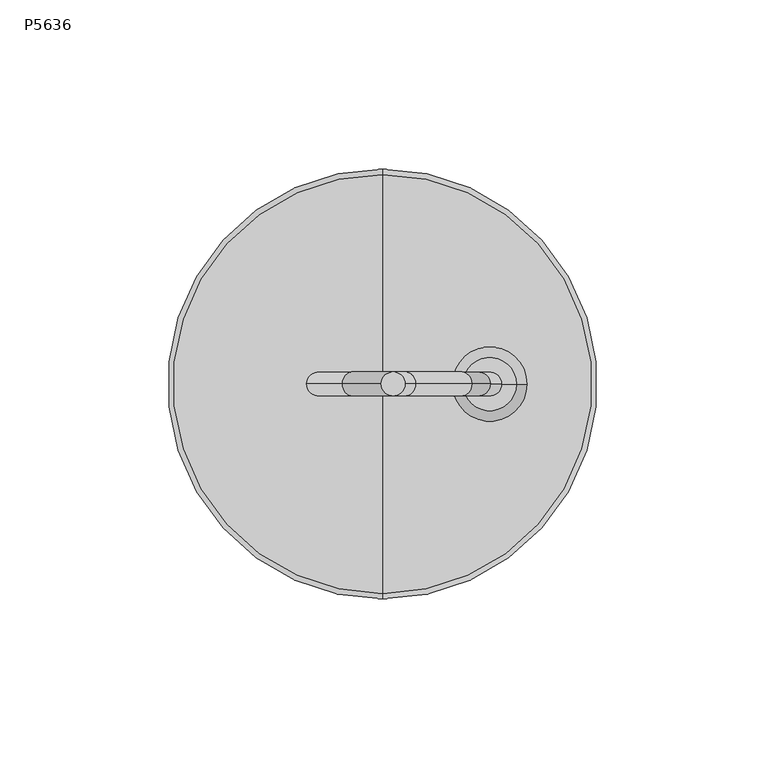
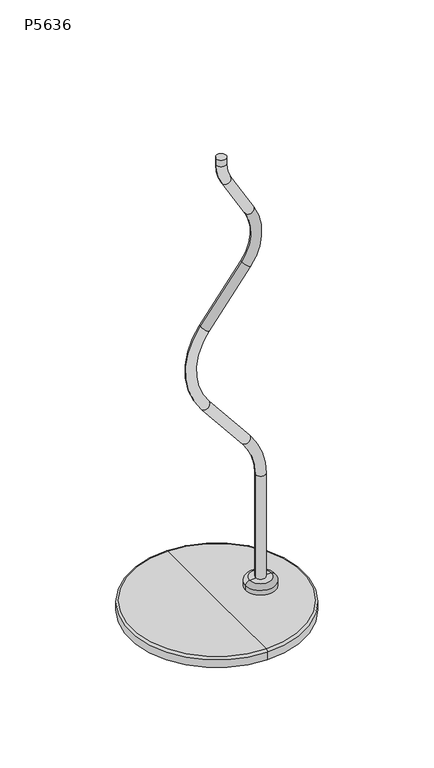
"""IFC4 building model written with IfcOpenShell, lengths in millimetres: light fixture geometry, Impact_Arch_Ltg-waf.r.3 : P5636."""

import ifcopenshell
import ifcopenshell.guid

model = None  # the IFC model being written
_history = None  # IfcOwnerHistory: only IFC2X3 demands one
_inside = {}  # id of a spatial element -> (the spatial element, [elements in it])
_under = {}  # id of a project, library or spatial element -> (it, [spatial elements below it])
_declared = {}  # id of a project -> (the project, [libraries it declares])
_typed = {}  # id of a type object -> (the type object, [elements of that type])
_made_of = {}  # id of a material, layer set ... -> (it, [elements and type objects made of it])


def new_model(schema):
    """Start an empty IFC model of exactly this schema.

    Asked for "IFC4X3", IfcOpenShell would pick the latest addendum, in which some entities
    have other attributes; the version numbers below select the first issue.
    IFC2X3 requires an IfcOwnerHistory on every rooted entity: one is made here for all.
    """
    global model, _history
    if schema == "IFC4X3":
        model = ifcopenshell.file(schema_version=(4, 3, 0, 0))
    else:
        model = ifcopenshell.file(schema=schema)
    _inside.clear()
    _under.clear()
    _declared.clear()
    _typed.clear()
    _made_of.clear()
    _history = None
    if model.schema == "IFC2X3":
        org = make("IfcOrganization", Name="unknown")
        user = make(
            "IfcPersonAndOrganization",
            ThePerson=make("IfcPerson", FamilyName="unknown"),
            TheOrganization=org,
        )
        app = make(
            "IfcApplication",
            ApplicationDeveloper=org,
            Version="unknown",
            ApplicationFullName="unknown",
            ApplicationIdentifier="unknown",
        )
        _history = make(
            "IfcOwnerHistory",
            OwningUser=user,
            OwningApplication=app,
            ChangeAction="ADDED",
            CreationDate=0,
        )
    return model


def make(cls, **values):
    """One entity of the class cls with the attributes given. An attribute that is None is left unset."""
    return model.create_entity(
        cls, **{name: value for name, value in values.items() if value is not None}
    )


def rooted(cls, **values):
    """An entity with a GlobalId (a new one), such as an element, a storey or a relation."""
    return make(cls, GlobalId=ifcopenshell.guid.new(), OwnerHistory=_history, **values)


def si_unit(unit_type, name, prefix=None):
    """IfcSIUnit, for example si_unit("LENGTHUNIT", "METRE", prefix="MILLI")."""
    return make("IfcSIUnit", UnitType=unit_type, Prefix=prefix, Name=name)


def assignment(units):
    """IfcUnitAssignment: the units of a project."""
    return None if units is None else make("IfcUnitAssignment", Units=units)


def point(xyz):
    """IfcCartesianPoint."""
    return None if xyz is None else make("IfcCartesianPoint", Coordinates=xyz)


def direction(xyz):
    """IfcDirection."""
    return None if xyz is None else make("IfcDirection", DirectionRatios=xyz)


def frame(location, z_axis=None, x_axis=None):
    """IfcAxis2Placement3D, a coordinate frame: its origin and axes. An axis left out is left unset."""
    return make(
        "IfcAxis2Placement3D",
        Location=point(location),
        Axis=direction(z_axis),
        RefDirection=direction(x_axis),
    )


def origin():
    """The frame at (0, 0, 0) with its axes left unset."""
    return frame((0.0, 0.0, 0.0))


def place(relative_to, where):
    """IfcLocalPlacement: puts the frame where relative to a parent placement (None: the world)."""
    return make(
        "IfcLocalPlacement", PlacementRelTo=relative_to, RelativePlacement=where
    )


def context(
    kind, dimensions, precision=None, world=None, true_north=None, identifier=None
):
    """IfcGeometricRepresentationContext, for example the 3D "Model" context."""
    return make(
        "IfcGeometricRepresentationContext",
        ContextIdentifier=identifier,
        ContextType=kind,
        CoordinateSpaceDimension=dimensions,
        Precision=precision,
        WorldCoordinateSystem=world,
        TrueNorth=true_north,
    )


def project(units=None, contexts=None):
    """IfcProject with its units and contexts."""
    return rooted(
        "IfcProject",
        Name="project",
        RepresentationContexts=contexts,
        UnitsInContext=assignment(units),
    )


def spatial(cls, under=None, at=None, **own):
    """A site, building, storey or space (cls), placed at a placement, below another one or the project."""
    s = rooted(cls, ObjectPlacement=at, **own)
    if under is not None:
        _under.setdefault(under.id(), (under, []))[1].append(s)
    return s


def circle_curve(where, radius):
    """IfcCircle in the frame where."""
    return make("IfcCircle", Position=where, Radius=radius)


def ellipse_curve(where, semi_axis1, semi_axis2):
    """IfcEllipse in the frame where."""
    return make(
        "IfcEllipse", Position=where, SemiAxis1=semi_axis1, SemiAxis2=semi_axis2
    )


def trimmed(basis, trim1, trim2, sense, master):
    """IfcTrimmedCurve: the piece of a basis curve between two trims."""
    return make(
        "IfcTrimmedCurve",
        BasisCurve=basis,
        Trim1=trim1,
        Trim2=trim2,
        SenseAgreement=sense,
        MasterRepresentation=master,
    )


def shape(context_of_items, identifier, shape_type, items):
    """IfcShapeRepresentation: the items that make up one representation, for example the "Body"."""
    return make(
        "IfcShapeRepresentation",
        ContextOfItems=context_of_items,
        RepresentationIdentifier=identifier,
        RepresentationType=shape_type,
        Items=items,
    )


def source(mapping_origin, context_of_items, identifier, shape_type, items):
    """IfcRepresentationMap: a shape defined once, which mapped items show again and again."""
    return make(
        "IfcRepresentationMap",
        MappingOrigin=mapping_origin,
        MappedRepresentation=shape(context_of_items, identifier, shape_type, items),
    )


def transform(
    local_origin,
    x_axis=None,
    y_axis=None,
    z_axis=None,
    scale=None,
    scale2=None,
    scale3=None,
    uniform=True,
):
    """IfcCartesianTransformationOperator3D, or its non-uniform kind. x_axis, y_axis, z_axis: its Axis1, 2, 3."""
    if uniform:
        return make(
            "IfcCartesianTransformationOperator3D",
            Axis1=direction(x_axis),
            Axis2=direction(y_axis),
            LocalOrigin=point(local_origin),
            Scale=scale,
            Axis3=direction(z_axis),
        )
    return make(
        "IfcCartesianTransformationOperator3DnonUniform",
        Axis1=direction(x_axis),
        Axis2=direction(y_axis),
        LocalOrigin=point(local_origin),
        Scale=scale,
        Axis3=direction(z_axis),
        Scale2=scale2,
        Scale3=scale3,
    )


def mapped(mapping_source, mapping_target):
    """IfcMappedItem: shows the shape of a source again, moved by a transform."""
    return make(
        "IfcMappedItem", MappingSource=mapping_source, MappingTarget=mapping_target
    )


def made_of(thing, what):
    """Note that an element or type object is made of a material, layer set ...; save() writes the relation."""
    if what is not None:
        _made_of.setdefault(what.id(), (what, []))[1].append(thing)
    return thing


def element(
    cls,
    number,
    at=None,
    inside=None,
    cuts=None,
    type_object=None,
    material=None,
    context=None,
    identifier="Body",
    shape_type=None,
    held_by="IfcProductDefinitionShape",
    body=None,
    shapes=None,
    **own,
):
    """One element of the class cls, such as IfcWall. Its Tag is "e" and its number.

    at: its placement. inside: the storey or other place that contains it. cuts: it is an
    opening in that element (IfcRelVoidsElement). A single representation is given by context,
    identifier, shape_type and body (its items); several are given by shapes. held_by: the class
    of the entity that holds the representations. save() writes the other relations.
    """
    e = rooted(cls, Tag="e%d" % number, ObjectPlacement=at, **own)
    if body is not None:
        shapes = [shape(context, identifier, shape_type, body)]
    if shapes is not None:
        e.Representation = make(held_by, Representations=shapes)
    if inside is not None:
        _inside.setdefault(inside.id(), (inside, []))[1].append(e)
    if cuts is not None:
        rooted(
            "IfcRelVoidsElement", RelatingBuildingElement=cuts, RelatedOpeningElement=e
        )
    if type_object is not None:
        _typed.setdefault(type_object.id(), (type_object, []))[1].append(e)
    return made_of(e, material)


def aggregate(whole, parts):
    """IfcRelAggregates: a whole, such as a stair, and the parts it consists of."""
    return rooted("IfcRelAggregates", RelatingObject=whole, RelatedObjects=parts)


def save(model, path):
    """Write the relations noted so far, then the file.

    IfcRelAggregates (storeys below a building ...), IfcRelContainedInSpatialStructure (elements
    in a storey), IfcRelDefinesByType, IfcRelAssociatesMaterial and IfcRelDeclares: one each for
    every whole, place, type object, material and project.
    """
    for whole, parts in _under.values():
        aggregate(whole, parts)
    for where, things in _inside.values():
        rooted(
            "IfcRelContainedInSpatialStructure",
            RelatedElements=things,
            RelatingStructure=where,
        )
    for kind, things in _typed.values():
        rooted("IfcRelDefinesByType", RelatedObjects=things, RelatingType=kind)
    for what, things in _made_of.values():
        rooted("IfcRelAssociatesMaterial", RelatedObjects=things, RelatingMaterial=what)
    for by, libraries in _declared.values():
        rooted("IfcRelDeclares", RelatingContext=by, RelatedDefinitions=libraries)
    model.write(path)


def plane_surface(at):
    """IfcPlane: the flat surface through the origin of the frame at, square to its z axis."""
    return make("IfcPlane", Position=at)


def cylinder_surface(at, radius):
    """IfcCylindricalSurface: all points at the distance radius from the z axis of the frame at."""
    return make("IfcCylindricalSurface", Position=at, Radius=radius)


def revolved_surface(curve, axis_point, axis_direction):
    """IfcSurfaceOfRevolution: the curve turned about the line through axis_point along axis_direction."""
    return make(
        "IfcSurfaceOfRevolution",
        SweptCurve=make("IfcArbitraryOpenProfileDef", ProfileType="CURVE", Curve=curve),
        AxisPosition=make("IfcAxis1Placement", Location=point(axis_point), Axis=direction(axis_direction)),
    )


def advanced_brep(points, edges, surfaces, faces):
    """IfcAdvancedBrep: a solid bounded by faces that lie on surfaces and meet in shared edges.

    An edge is (start, end): straight between two places in points (the first is 0);
    or (start, end, curve); or (start, end, curve, False) where it runs against its curve.
    A face is (place in surfaces, loops), or (place, loops, False) where it looks against
    its surface's normal. A loop lists edges by number (the first is 1), with a minus sign
    where the edge is run from its end to its start. The first loop is the outer one.
    """
    corners = [point(p) for p in points]
    vertices = [make("IfcVertexPoint", VertexGeometry=c) for c in corners]
    made = []
    for start, end, *more in edges:
        made.append(
            make(
                "IfcEdgeCurve",
                EdgeStart=vertices[start],
                EdgeEnd=vertices[end],
                EdgeGeometry=more[0] if more else make("IfcPolyline", Points=[corners[start], corners[end]]),
                SameSense=more[1] if len(more) > 1 else True,
            )
        )
    hull = []
    for where, loops, *sense in faces:
        bounds = []
        for j, loop in enumerate(loops):
            ring = [make("IfcOrientedEdge", EdgeElement=made[abs(k) - 1], Orientation=k > 0) for k in loop]
            bounds.append(
                make(
                    "IfcFaceOuterBound" if j == 0 else "IfcFaceBound",
                    Bound=make("IfcEdgeLoop", EdgeList=ring),
                    Orientation=True,
                )
            )
        hull.append(make("IfcAdvancedFace", Bounds=bounds, FaceSurface=surfaces[where], SameSense=sense[0] if sense else True))
    return make("IfcAdvancedBrep", Outer=make("IfcClosedShell", CfsFaces=hull))


def p5636_0e7e288c(model_context):
    return source(origin(), model_context, "Body", "AdvancedBrep", [
        advanced_brep(
        [(0.0, 63.5264903, 0.0), (0.0, -63.5264903, 0.0), (0.0, -63.5264903, 5.7785), (0.0, 63.5264903, 5.7785), (0.0, 0.0, 0.0), (0.0, 61.9389903, 7.366), (0.0, -61.9389903, 7.366), (0.0, 0.0, 7.366)],
        [
            (0, 1, circle_curve(frame((0.0, 0.0, 0.0), z_axis=(0.0, 0.0, 1.0), x_axis=(0.0, -1.0, 0.0)), 63.5264903)),
            (1, 2),
            (2, 3, circle_curve(frame((0.0, 0.0, 5.7785), z_axis=(0.0, 0.0, -1.0), x_axis=(0.0, -1.0, 0.0)), 63.5264903)),
            (3, 0),
            (1, 0, circle_curve(frame((0.0, 0.0, 0.0), z_axis=(0.0, 0.0, 1.0), x_axis=(0.0, -1.0, 0.0)), 63.5264903)),
            (3, 2, circle_curve(frame((0.0, 0.0, 5.7785), z_axis=(0.0, 0.0, -1.0), x_axis=(0.0, -1.0, 0.0)), 63.5264903)),
            (4, 1),
            (0, 4),
            (5, 6, circle_curve(frame((0.0, 0.0, 7.366), z_axis=(0.0, 0.0, 1.0), x_axis=(0.0, -1.0, 0.0)), 61.9389903)),
            (6, 7),
            (7, 5),
            (6, 5, circle_curve(frame((0.0, 0.0, 7.366), z_axis=(0.0, 0.0, 1.0), x_axis=(0.0, -1.0, 0.0)), 61.9389903)),
            (2, 6, circle_curve(frame((0.0, -61.9389903, 5.7785), z_axis=(-1.0, 0.0, 0.0), x_axis=(0.0, 1.0, 0.0)), 1.5875)),
            (5, 3, circle_curve(frame((0.0, 61.9389903, 5.7785), z_axis=(-1.0, 0.0, 0.0), x_axis=(0.0, -1.0, 0.0)), 1.5875)),
        ],
        [
            cylinder_surface(frame((0.0, 0.0, -9.7717916), z_axis=(0.0, 0.0, -1.0), x_axis=(0.0, -1.0, 0.0)), 63.5264903),
            plane_surface(frame((0.0, 0.0, 0.0), z_axis=(0.0, 0.0, -1.0), x_axis=(0.0, -1.0, 0.0))),
            plane_surface(frame((0.0, 0.0, 7.366), z_axis=(0.0, 0.0, 1.0), x_axis=(0.0, -1.0, 0.0))),
            revolved_surface(trimmed(ellipse_curve(frame((0.0, -61.9389903, 5.7785), z_axis=(1.0, 0.0, 0.0), x_axis=(0.0, 1.0, 0.0)), 1.5875, 1.5875), [point((0.0, -61.9389903, 7.366))], [point((0.0, -63.5264903, 5.7785))], True, "CARTESIAN"), (0.0, 0.0, -9.7717916), (0.0, 0.0, -1.0)),
        ],
        [
            (0, [[1, 2, 3, 4]]),
            (0, [[5, -4, 6, -2]]),
            (1, [[7, -1, 8]]),
            (1, [[-8, -5, -7]]),
            (2, [[9, 10, 11]]),
            (2, [[12, -11, -10]]),
            (3, [[-3, 13, -9, 14]]),
            (3, [[-6, -14, -12, -13]]),
        ],
    ),
        advanced_brep(
        [(31.75, 0.0, 14.351), (39.6031027, 0.0, 14.351), (23.8968973, 0.0, 14.351), (20.7570545, 0.0, 7.366), (42.7429455, 0.0, 7.366), (31.75, 0.0, 7.366), (20.7570545, 0.0, 11.2111572), (42.7429455, 0.0, 11.2111572)],
        [
            (0, 1),
            (1, 2, circle_curve(frame((31.75, 0.0, 14.351), z_axis=(0.0, 0.0, 1.0), x_axis=(1.0, 0.0, 0.0)), 7.8531027)),
            (2, 0),
            (2, 1, circle_curve(frame((31.75, 0.0, 14.351), z_axis=(0.0, 0.0, 1.0), x_axis=(1.0, 0.0, 0.0)), 7.8531027)),
            (3, 4, circle_curve(frame((31.75, 0.0, 7.366), z_axis=(0.0, 0.0, -1.0), x_axis=(1.0, 0.0, 0.0)), 10.9929455)),
            (4, 5),
            (5, 3),
            (4, 3, circle_curve(frame((31.75, 0.0, 7.366), z_axis=(0.0, 0.0, -1.0), x_axis=(1.0, 0.0, 0.0)), 10.9929455)),
            (6, 7, circle_curve(frame((31.75, 0.0, 11.2111572), z_axis=(0.0, 0.0, -1.0), x_axis=(1.0, 0.0, 0.0)), 10.9929455)),
            (7, 4),
            (3, 6),
            (7, 6, circle_curve(frame((31.75, 0.0, 11.2111572), z_axis=(0.0, 0.0, -1.0), x_axis=(1.0, 0.0, 0.0)), 10.9929455)),
            (1, 7, circle_curve(frame((39.6031027, 0.0, 11.2111572), z_axis=(0.0, 1.0, 0.0), x_axis=(1.0, 0.0, 0.0)), 3.1398428)),
            (6, 2, circle_curve(frame((23.8968973, 0.0, 11.2111572), z_axis=(0.0, 1.0, 0.0), x_axis=(-1.0, 0.0, 0.0)), 3.1398428)),
        ],
        [
            plane_surface(frame((31.75, 0.0, 14.351), z_axis=(0.0, 0.0, 1.0), x_axis=(1.0, 0.0, 0.0))),
            plane_surface(frame((31.75, 0.0, 7.366), z_axis=(0.0, 0.0, -1.0), x_axis=(1.0, 0.0, 0.0))),
            cylinder_surface(frame((31.75, 0.0, 20.1361367), z_axis=(0.0, 0.0, 1.0), x_axis=(1.0, 0.0, 0.0)), 10.9929455),
            revolved_surface(trimmed(ellipse_curve(frame((39.6031027, 0.0, 11.2111572), z_axis=(0.0, -1.0, 0.0), x_axis=(1.0, 0.0, 0.0)), 3.1398428, 3.1398428), [point((42.7429455, 0.0, 11.2111572))], [point((39.6031027, 0.0, 14.351))], True, "CARTESIAN"), (31.75, 0.0, 20.1361367), (0.0, 0.0, 1.0)),
        ],
        [
            (0, [[1, 2, 3]]),
            (0, [[-3, 4, -1]]),
            (1, [[5, 6, 7]]),
            (1, [[8, -7, -6]]),
            (2, [[9, 10, -5, 11]]),
            (2, [[12, -11, -8, -10]]),
            (3, [[-2, 13, -9, 14]]),
            (3, [[-4, -14, -12, -13]]),
        ],
    ),
        advanced_brep(
        [(35.2628496, 0.0, 14.3508541), (28.1759769, 0.0, 14.3508541), (35.2628496, 0.0, 93.5752863), (28.1759769, 0.0, 93.5752863), (18.43433, 0.0, 121.0848487), (23.9418645, 0.0, 125.5447622), (-5.6345189, 0.0, 162.0685539), (-11.1420534, 0.0, 157.6086404), (-11.9661144, 0.0, 221.4301178), (-6.3452627, 0.0, 217.1138937), (23.7390917, 0.0, 256.2915849), (18.1182399, 0.0, 260.607809), (20.4729401, 0.0, 297.1006159), (26.6018809, 0.0, 300.6586841), (9.9112613, 0.0, 329.4090662), (3.7823205, 0.0, 325.8509981), (-0.4093526, 0.0, 341.4202249), (6.6775201, 0.0, 341.4202249), (6.6775201, 0.0, 346.6951686), (-0.4093526, 0.0, 346.6951686)],
        [
            (0, 1, circle_curve(frame((31.7194133, 0.0, 14.3508541), z_axis=(0.0, 0.0, -1.0), x_axis=(-1.0, 0.0, 0.0)), 3.5434363)),
            (1, 0, circle_curve(frame((31.7194133, 0.0, 14.3508541), z_axis=(0.0, 0.0, -1.0), x_axis=(-1.0, 0.0, 0.0)), 3.5434363)),
            (0, 2),
            (2, 3, circle_curve(frame((31.7194133, 0.0, 93.5752863), z_axis=(0.0, 0.0, -1.0), x_axis=(-1.0, 0.0, 0.0)), 3.5434363)),
            (3, 1),
            (3, 2, circle_curve(frame((31.7194133, 0.0, 93.5752863), z_axis=(0.0, 0.0, -1.0), x_axis=(-1.0, 0.0, 0.0)), 3.5434363)),
            (4, 3, circle_curve(frame((-15.5371504, 0.0, 93.5752863), z_axis=(0.0, 1.0, 0.0), x_axis=(1.0, 0.0, 0.0)), 43.7131273)),
            (2, 5, circle_curve(frame((-15.5371504, 0.0, 93.5752863), z_axis=(0.0, -1.0, 0.0), x_axis=(1.0, 0.0, 0.0)), 50.8)),
            (5, 4, circle_curve(frame((21.1880972, 0.0, 123.3148054), z_axis=(0.6293203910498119, 0.0, -0.7771459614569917), x_axis=(-0.7771459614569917, 0.0, -0.6293203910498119)), 3.5434363)),
            (4, 5, circle_curve(frame((21.1880972, 0.0, 123.3148054), z_axis=(0.6293203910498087, 0.0, -0.7771459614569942), x_axis=(-0.7771459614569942, 0.0, -0.6293203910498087)), 3.5434363)),
            (5, 6),
            (6, 7, circle_curve(frame((-8.3882861, 0.0, 159.8385971), z_axis=(0.6293203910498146, 0.0, -0.7771459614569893), x_axis=(-0.7771459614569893, 0.0, -0.6293203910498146)), 3.5434363)),
            (7, 4),
            (7, 6, circle_curve(frame((-8.3882861, 0.0, 159.8385971), z_axis=(0.6293203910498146, 0.0, -0.7771459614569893), x_axis=(-0.7771459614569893, 0.0, -0.6293203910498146)), 3.5434363)),
            (8, 7, circle_curve(frame((28.9096191, 0.0, 190.0418453), z_axis=(0.0, -1.0, 0.0), x_axis=(-0.7771459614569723, 0.0, -0.6293203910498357)), 51.5368727)),
            (6, 9, circle_curve(frame((28.9096191, 0.0, 190.0418453), z_axis=(0.0, 1.0, 0.0), x_axis=(-0.7771459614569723, 0.0, -0.6293203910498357)), 44.45)),
            (9, 8, circle_curve(frame((-9.1556885, 0.0, 219.2720058), z_axis=(-0.6090449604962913, 0.0, -0.7931356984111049), x_axis=(-0.7931356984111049, 0.0, 0.6090449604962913)), 3.5434363)),
            (8, 9, circle_curve(frame((-9.1556885, 0.0, 219.2720058), z_axis=(-0.6090449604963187, 0.0, -0.7931356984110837), x_axis=(-0.7931356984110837, 0.0, 0.6090449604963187)), 3.5434363)),
            (9, 10),
            (10, 11, circle_curve(frame((20.9286658, 0.0, 258.449697), z_axis=(-0.6090449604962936, 0.0, -0.7931356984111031), x_axis=(-0.7931356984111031, 0.0, 0.6090449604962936)), 3.5434363)),
            (11, 8),
            (11, 10, circle_curve(frame((20.9286658, 0.0, 258.449697), z_axis=(-0.6090449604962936, 0.0, -0.7931356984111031), x_axis=(-0.7931356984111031, 0.0, 0.6090449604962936)), 3.5434363)),
            (12, 11, circle_curve(frame((-7.9311686, 0.0, 280.6110204), z_axis=(0.0, 1.0, 0.0), x_axis=(0.7931356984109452, 0.0, -0.6090449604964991)), 32.8435709)),
            (10, 13, circle_curve(frame((-7.9311686, 0.0, 280.6110204), z_axis=(0.0, -1.0, 0.0), x_axis=(0.7931356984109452, 0.0, -0.6090449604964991)), 39.9304436)),
            (13, 12, circle_curve(frame((23.5374105, 0.0, 298.87965), z_axis=(0.5020646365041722, 0.0, -0.8648300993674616), x_axis=(-0.8648300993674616, 0.0, -0.5020646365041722)), 3.5434363)),
            (12, 13, circle_curve(frame((23.5374105, 0.0, 298.87965), z_axis=(0.502064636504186, 0.0, -0.8648300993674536), x_axis=(-0.8648300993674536, 0.0, -0.502064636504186)), 3.5434363)),
            (13, 14),
            (14, 15, circle_curve(frame((6.8467909, 0.0, 327.6300322), z_axis=(0.5020646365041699, 0.0, -0.8648300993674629), x_axis=(-0.8648300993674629, 0.0, -0.5020646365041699)), 3.5434363)),
            (15, 12),
            (15, 14, circle_curve(frame((6.8467909, 0.0, 327.6300322), z_axis=(0.5020646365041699, 0.0, -0.8648300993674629), x_axis=(-0.8648300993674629, 0.0, -0.5020646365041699)), 3.5434363)),
            (16, 15, circle_curve(frame((30.6010507, 0.0, 341.4202249), z_axis=(0.0, -1.0, 0.0), x_axis=(-0.8648300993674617, 0.0, -0.502064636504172)), 31.0104033)),
            (14, 17, circle_curve(frame((30.6010507, 0.0, 341.4202249), z_axis=(0.0, 1.0, 0.0), x_axis=(-0.8648300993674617, 0.0, -0.502064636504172)), 23.9235306)),
            (17, 16, circle_curve(frame((3.1340837, 0.0, 341.4202249), z_axis=(0.0, 0.0, -1.0), x_axis=(-1.0, 0.0, 0.0)), 3.5434363)),
            (16, 17, circle_curve(frame((3.1340837, 0.0, 341.4202249), z_axis=(0.0, 0.0, -1.0), x_axis=(-1.0, 0.0, 0.0)), 3.5434363)),
            (18, 19, circle_curve(frame((3.1340837, 0.0, 346.6951686), z_axis=(0.0, 0.0, 1.0), x_axis=(-1.0, 0.0, 0.0)), 3.5434363)),
            (19, 18, circle_curve(frame((3.1340837, 0.0, 346.6951686), z_axis=(0.0, 0.0, 1.0), x_axis=(-1.0, 0.0, 0.0)), 3.5434363)),
            (17, 18),
            (19, 16),
        ],
        [
            plane_surface(frame((35.2628496, 0.0, 14.3508541), z_axis=(0.0, 0.0, -1.0), x_axis=(0.0, -1.0, 0.0))),
            cylinder_surface(frame((31.7194133, 0.0, 14.3508541), z_axis=(0.0, 0.0, -1.0), x_axis=(-1.0, 0.0, 0.0)), 3.5434363),
            revolved_surface(trimmed(ellipse_curve(frame((31.7194133, 0.0, 93.5752863), z_axis=(0.0, 0.0, -1.0), x_axis=(-1.0, 0.0, 0.0)), 3.5434363, 3.5434363), [point((35.2628496, 0.0, 93.5752863))], [point((28.1759769, 0.0, 93.5752863))], True, "CARTESIAN"), (-15.5371504, 0.0, 93.5752863), (0.0, -1.0, 0.0)),
            revolved_surface(trimmed(ellipse_curve(frame((31.7194133, 0.0, 93.5752863), z_axis=(0.0, 0.0, -1.0), x_axis=(-1.0, 0.0, 0.0)), 3.5434363, 3.5434363), [point((28.1759769, 0.0, 93.5752863))], [point((35.2628496, 0.0, 93.5752863))], True, "CARTESIAN"), (-15.5371504, 0.0, 93.5752863), (0.0, -1.0, 0.0)),
            cylinder_surface(frame((21.1880972, 0.0, 123.3148054), z_axis=(0.6293203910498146, 0.0, -0.7771459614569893), x_axis=(-0.7771459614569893, 0.0, -0.6293203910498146)), 3.5434363),
            revolved_surface(trimmed(ellipse_curve(frame((-8.3882861, 0.0, 159.8385971), z_axis=(0.6293203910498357, 0.0, -0.7771459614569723), x_axis=(-0.7771459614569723, 0.0, -0.6293203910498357)), 3.5434363, 3.5434363), [point((-5.6345189, 0.0, 162.0685539))], [point((-11.1420534, 0.0, 157.6086404))], True, "CARTESIAN"), (28.9096191, 0.0, 190.0418453), (0.0, 1.0, 0.0)),
            revolved_surface(trimmed(ellipse_curve(frame((-8.3882861, 0.0, 159.8385971), z_axis=(0.6293203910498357, 0.0, -0.7771459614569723), x_axis=(-0.7771459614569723, 0.0, -0.6293203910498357)), 3.5434363, 3.5434363), [point((-11.1420534, 0.0, 157.6086404))], [point((-5.6345189, 0.0, 162.0685539))], True, "CARTESIAN"), (28.9096191, 0.0, 190.0418453), (0.0, 1.0, 0.0)),
            cylinder_surface(frame((-9.1556885, 0.0, 219.2720058), z_axis=(-0.6090449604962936, 0.0, -0.7931356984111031), x_axis=(-0.7931356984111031, 0.0, 0.6090449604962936)), 3.5434363),
            revolved_surface(trimmed(ellipse_curve(frame((20.9286658, 0.0, 258.449697), z_axis=(-0.6090449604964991, 0.0, -0.7931356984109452), x_axis=(-0.7931356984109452, 0.0, 0.6090449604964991)), 3.5434363, 3.5434363), [point((23.7390917, 0.0, 256.2915849))], [point((18.1182399, 0.0, 260.607809))], True, "CARTESIAN"), (-7.9311686, 0.0, 280.6110204), (0.0, -1.0, 0.0)),
            revolved_surface(trimmed(ellipse_curve(frame((20.9286658, 0.0, 258.449697), z_axis=(-0.6090449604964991, 0.0, -0.7931356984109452), x_axis=(-0.7931356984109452, 0.0, 0.6090449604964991)), 3.5434363, 3.5434363), [point((18.1182399, 0.0, 260.607809))], [point((23.7390917, 0.0, 256.2915849))], True, "CARTESIAN"), (-7.9311686, 0.0, 280.6110204), (0.0, -1.0, 0.0)),
            cylinder_surface(frame((23.5374105, 0.0, 298.87965), z_axis=(0.5020646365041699, 0.0, -0.8648300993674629), x_axis=(-0.8648300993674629, 0.0, -0.5020646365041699)), 3.5434363),
            revolved_surface(trimmed(ellipse_curve(frame((6.8467909, 0.0, 327.6300322), z_axis=(0.5020646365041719, 0.0, -0.8648300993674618), x_axis=(-0.8648300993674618, 0.0, -0.5020646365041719)), 3.5434363, 3.5434363), [point((9.9112613, 0.0, 329.4090662))], [point((3.7823205, 0.0, 325.8509981))], True, "CARTESIAN"), (30.6010507, 0.0, 341.4202249), (0.0, 1.0, 0.0)),
            revolved_surface(trimmed(ellipse_curve(frame((6.8467909, 0.0, 327.6300322), z_axis=(0.5020646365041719, 0.0, -0.8648300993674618), x_axis=(-0.8648300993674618, 0.0, -0.5020646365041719)), 3.5434363, 3.5434363), [point((3.7823205, 0.0, 325.8509981))], [point((9.9112613, 0.0, 329.4090662))], True, "CARTESIAN"), (30.6010507, 0.0, 341.4202249), (0.0, 1.0, 0.0)),
            plane_surface(frame((6.6775201, 0.0, 346.6951686), z_axis=(0.0, 0.0, 1.0), x_axis=(0.0, -1.0, 0.0))),
            cylinder_surface(frame((3.1340837, 0.0, 341.4202249), z_axis=(0.0, 0.0, -1.0), x_axis=(-1.0, 0.0, 0.0)), 3.5434363),
        ],
        [
            (0, [[1, 2]]),
            (1, [[-1, 3, 4, 5]]),
            (1, [[-2, -5, 6, -3]]),
            (2, [[7, -4, 8, 9]]),
            (3, [[-8, -6, -7, 10]]),
            (4, [[-9, 11, 12, 13]]),
            (4, [[-10, -13, 14, -11]]),
            (5, [[15, -12, 16, 17]]),
            (6, [[-16, -14, -15, 18]]),
            (7, [[-17, 19, 20, 21]]),
            (7, [[-18, -21, 22, -19]]),
            (8, [[23, -20, 24, 25]]),
            (9, [[-24, -22, -23, 26]]),
            (10, [[-25, 27, 28, 29]]),
            (10, [[-26, -29, 30, -27]]),
            (11, [[31, -28, 32, 33]]),
            (12, [[-32, -30, -31, 34]]),
            (13, [[35, 36]]),
            (14, [[-33, 37, -36, 38]]),
            (14, [[-34, -38, -35, -37]]),
        ],
    ),
    ])


if __name__ == "__main__":
    model = new_model("IFC4")
    model_context = context("Model", 3, world=origin())
    ifc_project = project(units=[si_unit("LENGTHUNIT", "METRE", prefix="MILLI")], contexts=[model_context])
    site = spatial("IfcSite", under=ifc_project)
    building = spatial("IfcBuilding", under=site)
    placement = place(None, origin())
    p5636_shape = p5636_0e7e288c(model_context)
    element("IfcLightFixture", 1, ObjectType="Impact_Arch_Ltg-waf.r.3 : P5636", at=placement, inside=building, context=model_context, shape_type="MappedRepresentation", body=[
        mapped(p5636_shape, transform((0.0, 0.0, 0.0), x_axis=(1.0, 0.0, 0.0), y_axis=(0.0, 1.0, 0.0), z_axis=(0.0, 0.0, 1.0))),
    ])
    save(model, "model.ifc")
